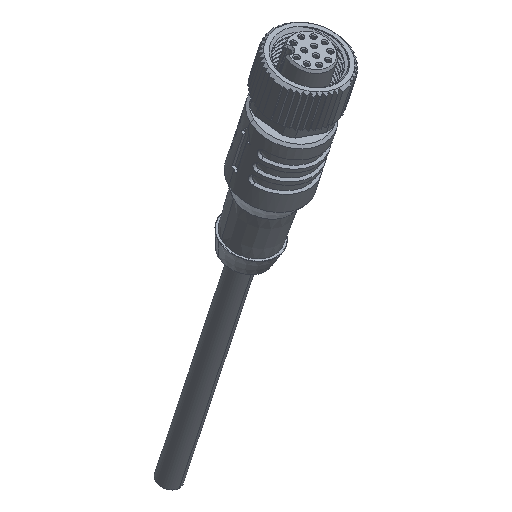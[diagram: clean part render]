
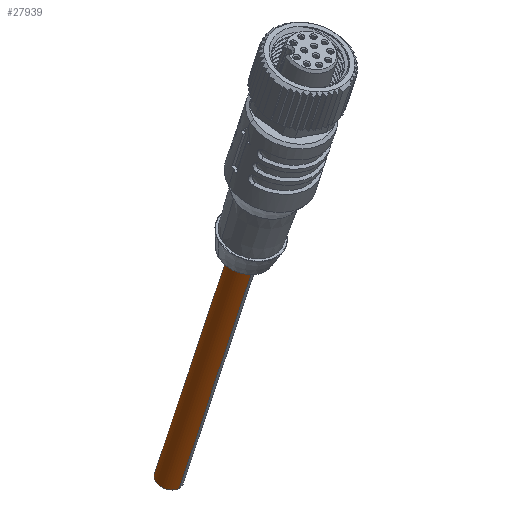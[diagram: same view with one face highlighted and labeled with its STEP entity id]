
A CAD part, isometric view. The second image highlights one B-rep face of the part: STEP entity #27939.
In plain terms, the highlighted cylindrical face has radius 2.25 mm (diameter 4.5 mm), a partial arc.
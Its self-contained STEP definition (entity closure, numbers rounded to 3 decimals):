
#514 = CARTESIAN_POINT ( 'NONE',  ( 6.855, 14.533, -63.211 ) ) ;
#1915 = AXIS2_PLACEMENT_3D ( 'NONE', #16683, #3616, #11008 ) ;
#2289 = DIRECTION ( 'NONE',  ( -0.023, 0.295, -0.955 ) ) ;
#2530 = FACE_OUTER_BOUND ( 'NONE', #17202, .T. ) ;
#3616 = DIRECTION ( 'NONE',  ( -0.023, 0.295, -0.955 ) ) ;
#3816 = VECTOR ( 'NONE', #18659, 1000. ) ;
#4723 = LINE ( 'NONE', #20565, #29093 ) ;
#5437 = CARTESIAN_POINT ( 'NONE',  ( 5.486, 36.59, -119.298 ) ) ;
#7025 = AXIS2_PLACEMENT_3D ( 'NONE', #18532, #8099, #28757 ) ;
#8095 = EDGE_CURVE ( 'NONE', #25503, #18435, #23530, .T. ) ;
#8099 = DIRECTION ( 'NONE',  ( -0.023, 0.295, -0.955 ) ) ;
#8392 = AXIS2_PLACEMENT_3D ( 'NONE', #31482, #26328, #10693 ) ;
#10693 = DIRECTION ( 'NONE',  ( 0., 0.955, 0.295 ) ) ;
#11008 = DIRECTION ( 'NONE',  ( 0., 0.955, 0.295 ) ) ;
#11309 = EDGE_CURVE ( 'NONE', #18435, #13790, #31885, .T. ) ;
#11763 = EDGE_CURVE ( 'NONE', #13790, #32438, #25977, .T. ) ;
#13790 = VERTEX_POINT ( 'NONE', #14186 ) ;
#14186 = CARTESIAN_POINT ( 'NONE',  ( 5.486, 32.291, -120.627 ) ) ;
#16683 = CARTESIAN_POINT ( 'NONE',  ( 5.486, 34.441, -119.963 ) ) ;
#17202 = EDGE_LOOP ( 'NONE', ( #24276, #17487, #32841, #30059 ) ) ;
#17487 = ORIENTED_EDGE ( 'NONE', *, *, #8095, .F. ) ;
#18435 = VERTEX_POINT ( 'NONE', #20902 ) ;
#18532 = CARTESIAN_POINT ( 'NONE',  ( 6.855, 16.683, -62.546 ) ) ;
#18659 = DIRECTION ( 'NONE',  ( -0.023, 0.295, -0.955 ) ) ;
#20565 = CARTESIAN_POINT ( 'NONE',  ( 6.855, 18.833, -61.881 ) ) ;
#20902 = CARTESIAN_POINT ( 'NONE',  ( 6.625, 17.522, -72.872 ) ) ;
#23530 = CIRCLE ( 'NONE', #8392, 2.25 ) ;
#23594 = EDGE_CURVE ( 'NONE', #25503, #32438, #4723, .T. ) ;
#24080 = CYLINDRICAL_SURFACE ( 'NONE', #7025, 2.25 ) ;
#24276 = ORIENTED_EDGE ( 'NONE', *, *, #11309, .F. ) ;
#25503 = VERTEX_POINT ( 'NONE', #30519 ) ;
#25977 = CIRCLE ( 'NONE', #1915, 2.25 ) ;
#26328 = DIRECTION ( 'NONE',  ( 0.023, -0.295, 0.955 ) ) ;
#27939 = ADVANCED_FACE ( 'NONE', ( #2530 ), #24080, .T. ) ;
#28757 = DIRECTION ( 'NONE',  ( 0., 0.955, 0.295 ) ) ;
#29093 = VECTOR ( 'NONE', #2289, 1000. ) ;
#30059 = ORIENTED_EDGE ( 'NONE', *, *, #11763, .F. ) ;
#30519 = CARTESIAN_POINT ( 'NONE',  ( 6.625, 21.821, -71.543 ) ) ;
#31482 = CARTESIAN_POINT ( 'NONE',  ( 6.625, 19.671, -72.207 ) ) ;
#31885 = LINE ( 'NONE', #514, #3816 ) ;
#32438 = VERTEX_POINT ( 'NONE', #5437 ) ;
#32841 = ORIENTED_EDGE ( 'NONE', *, *, #23594, .T. ) ;
